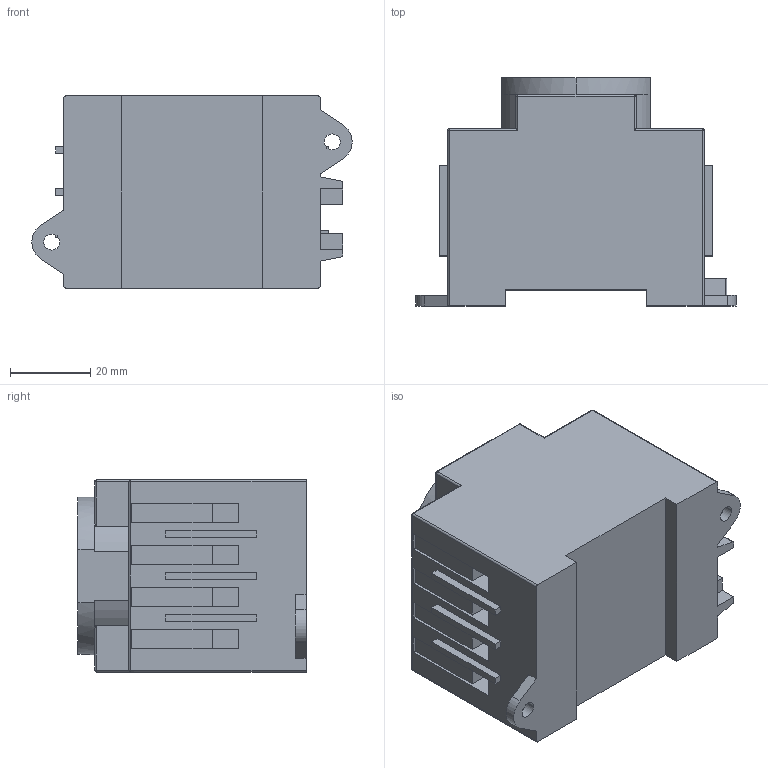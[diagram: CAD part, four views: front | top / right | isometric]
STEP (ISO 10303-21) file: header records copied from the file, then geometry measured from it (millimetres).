
FILE_DESCRIPTION (( 'STEP AP203' ), '1' );
FILE_NAME ('LTS32 V 6914.STEP', '2014-03-14T10:09:14', ( '' ), ( '' ), 'SwSTEP 2.0', 'SolidWorks 2014', '' );
FILE_SCHEMA (( 'CONFIG_CONTROL_DESIGN' ));
Length unit declared in the file: millimetre
Products named in the file (1): LTS32 V 6914
Bounding box: 80 x 57 x 48 mm (x, y, z)
Volume: 143000.3 mm3; surface area: 22947.1 mm2
Topology: 1 solids, 1 shells, 217 faces, 548 edges, 350 vertices
Faces by surface type: plane 144, cylinder 47, bspline 14, cone 12
Entity records: 6675 total; most frequent: CARTESIAN_POINT 1366, ORIENTED_EDGE 1088, DIRECTION 1062, EDGE_CURVE 544, LINE 418, VECTOR 418, VERTEX_POINT 350, AXIS2_PLACEMENT_3D 322
